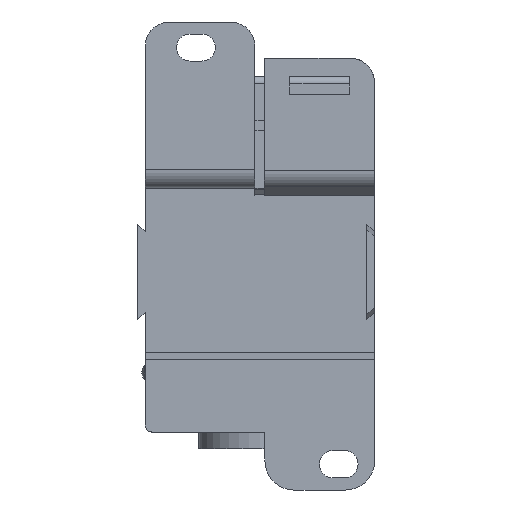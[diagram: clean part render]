
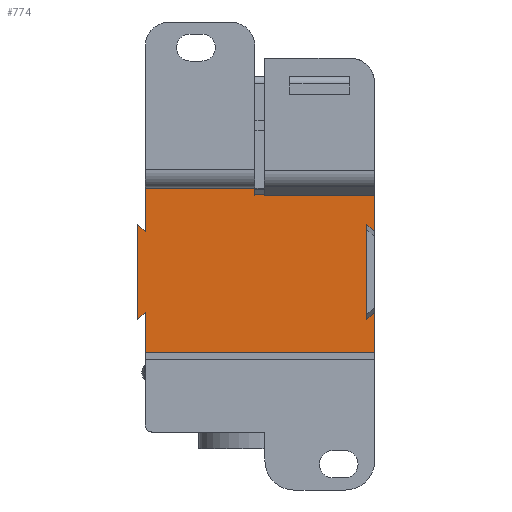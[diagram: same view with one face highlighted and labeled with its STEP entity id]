
A CAD part, front view. The second image highlights one B-rep face of the part: STEP entity #774.
In plain terms, the highlighted planar face has unit normal (0, -1, 0).
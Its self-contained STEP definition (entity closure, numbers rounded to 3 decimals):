
#79 = EDGE_CURVE ( 'NONE', #3804, #2477, #7376, .T. ) ;
#80 = EDGE_CURVE ( 'NONE', #2446, #3613, #7379, .T. ) ;
#81 = EDGE_CURVE ( 'NONE', #3617, #2481, #7382, .T. ) ;
#82 = EDGE_CURVE ( 'NONE', #3804, #3617, #7385, .T. ) ;
#83 = EDGE_CURVE ( 'NONE', #3850, #2798, #7388, .T. ) ;
#84 = EDGE_CURVE ( 'NONE', #3796, #3850, #7391, .T. ) ;
#85 = EDGE_CURVE ( 'NONE', #3796, #2853, #7394, .T. ) ;
#86 = EDGE_CURVE ( 'NONE', #3862, #2852, #7397, .T. ) ;
#87 = EDGE_CURVE ( 'NONE', #3861, #3863, #7400, .T. ) ;
#88 = EDGE_CURVE ( 'NONE', #3613, #3863, #7403, .T. ) ;
#699 = EDGE_CURVE ( 'NONE', #2852, #2853, #9649, .T. ) ;
#700 = EDGE_CURVE ( 'NONE', #2798, #2477, #9652, .T. ) ;
#774 = ADVANCED_FACE ( 'NONE', ( #10791 ), #9916, .T. ) ;
#1932 = EDGE_CURVE ( 'NONE', #2481, #2446, #15272, .T. ) ;
#1936 = EDGE_CURVE ( 'NONE', #3861, #3862, #15284, .T. ) ;
#2446 = VERTEX_POINT ( 'NONE', #15372 ) ;
#2477 = VERTEX_POINT ( 'NONE', #15403 ) ;
#2481 = VERTEX_POINT ( 'NONE', #15407 ) ;
#2798 = VERTEX_POINT ( 'NONE', #15724 ) ;
#2852 = VERTEX_POINT ( 'NONE', #15778 ) ;
#2853 = VERTEX_POINT ( 'NONE', #15779 ) ;
#3467 = EDGE_LOOP ( 'NONE', ( #4042, #4043, #4041, #4045, #4044, #4047, #4046, #4049, #4048, #4050, #4051, #4052, #4053, #4055 ) ) ;
#3613 = VERTEX_POINT ( 'NONE', #15965 ) ;
#3617 = VERTEX_POINT ( 'NONE', #15969 ) ;
#3796 = VERTEX_POINT ( 'NONE', #16148 ) ;
#3804 = VERTEX_POINT ( 'NONE', #16156 ) ;
#3850 = VERTEX_POINT ( 'NONE', #16209 ) ;
#3861 = VERTEX_POINT ( 'NONE', #16220 ) ;
#3862 = VERTEX_POINT ( 'NONE', #16221 ) ;
#3863 = VERTEX_POINT ( 'NONE', #16222 ) ;
#4041 = ORIENTED_EDGE ( 'NONE', *, *, #81, .F. ) ;
#4042 = ORIENTED_EDGE ( 'NONE', *, *, #80, .F. ) ;
#4043 = ORIENTED_EDGE ( 'NONE', *, *, #1932, .F. ) ;
#4044 = ORIENTED_EDGE ( 'NONE', *, *, #79, .T. ) ;
#4045 = ORIENTED_EDGE ( 'NONE', *, *, #82, .F. ) ;
#4046 = ORIENTED_EDGE ( 'NONE', *, *, #83, .F. ) ;
#4047 = ORIENTED_EDGE ( 'NONE', *, *, #700, .F. ) ;
#4048 = ORIENTED_EDGE ( 'NONE', *, *, #85, .T. ) ;
#4049 = ORIENTED_EDGE ( 'NONE', *, *, #84, .F. ) ;
#4050 = ORIENTED_EDGE ( 'NONE', *, *, #699, .F. ) ;
#4051 = ORIENTED_EDGE ( 'NONE', *, *, #86, .F. ) ;
#4052 = ORIENTED_EDGE ( 'NONE', *, *, #1936, .F. ) ;
#4053 = ORIENTED_EDGE ( 'NONE', *, *, #87, .T. ) ;
#4055 = ORIENTED_EDGE ( 'NONE', *, *, #88, .F. ) ;
#4732 = VECTOR ( 'NONE', #9651, 1000. ) ;
#4733 = VECTOR ( 'NONE', #9654, 1000. ) ;
#7376 = LINE ( 'NONE', #7377, #18971 ) ;
#7377 = CARTESIAN_POINT ( 'NONE',  ( 93.444, 6.4, 14. ) ) ;
#7378 = DIRECTION ( 'NONE',  ( -1., 0., 0. ) ) ;
#7379 = LINE ( 'NONE', #7380, #18947 ) ;
#7380 = CARTESIAN_POINT ( 'NONE',  ( 23.75, 6.4, 5.05 ) ) ;
#7381 = DIRECTION ( 'NONE',  ( -0.729, 0., 0.684 ) ) ;
#7382 = LINE ( 'NONE', #7383, #18952 ) ;
#7383 = CARTESIAN_POINT ( 'NONE',  ( 93.444, 6.4, 12.732 ) ) ;
#7384 = DIRECTION ( 'NONE',  ( 1., 0., 0. ) ) ;
#7385 = LINE ( 'NONE', #7386, #18958 ) ;
#7386 = CARTESIAN_POINT ( 'NONE',  ( -1.05, 6.4, 0. ) ) ;
#7387 = DIRECTION ( 'NONE',  ( 0., 0., -1. ) ) ;
#7388 = LINE ( 'NONE', #7389, #18964 ) ;
#7389 = CARTESIAN_POINT ( 'NONE',  ( -25.35, 6.4, 6.55 ) ) ;
#7390 = DIRECTION ( 'NONE',  ( 0.729, 0., -0.684 ) ) ;
#7391 = LINE ( 'NONE', #7392, #18961 ) ;
#7392 = CARTESIAN_POINT ( 'NONE',  ( -25.35, 6.4, -13.2 ) ) ;
#7393 = DIRECTION ( 'NONE',  ( 0., 0., 1. ) ) ;
#7394 = LINE ( 'NONE', #7395, #18970 ) ;
#7395 = CARTESIAN_POINT ( 'NONE',  ( -25.35, 6.4, -13.2 ) ) ;
#7396 = DIRECTION ( 'NONE',  ( 0.729, 0., 0.684 ) ) ;
#7397 = LINE ( 'NONE', #7398, #18946 ) ;
#7398 = CARTESIAN_POINT ( 'NONE',  ( 93.444, 6.4, -21.5 ) ) ;
#7399 = DIRECTION ( 'NONE',  ( -1., 0., 0. ) ) ;
#7400 = LINE ( 'NONE', #7401, #19859 ) ;
#7401 = CARTESIAN_POINT ( 'NONE',  ( 23.75, 6.4, -11.7 ) ) ;
#7402 = DIRECTION ( 'NONE',  ( -0.729, 0., -0.684 ) ) ;
#7403 = LINE ( 'NONE', #7404, #19855 ) ;
#7404 = CARTESIAN_POINT ( 'NONE',  ( 22.15, 6.4, 6.55 ) ) ;
#7405 = DIRECTION ( 'NONE',  ( 0., 0., -1. ) ) ;
#9649 = LINE ( 'NONE', #9650, #4732 ) ;
#9650 = CARTESIAN_POINT ( 'NONE',  ( -23.75, 6.4, 0. ) ) ;
#9651 = DIRECTION ( 'NONE',  ( 0., 0., 1. ) ) ;
#9652 = LINE ( 'NONE', #9653, #4733 ) ;
#9653 = CARTESIAN_POINT ( 'NONE',  ( -23.75, 6.4, 0. ) ) ;
#9654 = DIRECTION ( 'NONE',  ( 0., 0., 1. ) ) ;
#9916 = PLANE ( 'NONE',  #10794 ) ;
#9917 = CARTESIAN_POINT ( 'NONE',  ( 93.444, 6.4, 0. ) ) ;
#9918 = DIRECTION ( 'NONE',  ( 0., -1., 0. ) ) ;
#9919 = DIRECTION ( 'NONE',  ( 0., 0., -1. ) ) ;
#10791 = FACE_OUTER_BOUND ( 'NONE', #3467, .T. ) ;
#10794 = AXIS2_PLACEMENT_3D ( 'NONE', #9917, #9918, #9919 ) ;
#14850 = VECTOR ( 'NONE', #15274, 1000. ) ;
#14854 = VECTOR ( 'NONE', #15286, 1000. ) ;
#15272 = LINE ( 'NONE', #15273, #14850 ) ;
#15273 = CARTESIAN_POINT ( 'NONE',  ( 23.75, 6.4, 0. ) ) ;
#15274 = DIRECTION ( 'NONE',  ( 0., 0., -1. ) ) ;
#15284 = LINE ( 'NONE', #15285, #14854 ) ;
#15285 = CARTESIAN_POINT ( 'NONE',  ( 23.75, 6.4, 0. ) ) ;
#15286 = DIRECTION ( 'NONE',  ( 0., 0., -1. ) ) ;
#15372 = CARTESIAN_POINT ( 'NONE',  ( 23.75, 6.4, 5.05 ) ) ;
#15403 = CARTESIAN_POINT ( 'NONE',  ( -23.75, 6.4, 14. ) ) ;
#15407 = CARTESIAN_POINT ( 'NONE',  ( 23.75, 6.4, 12.732 ) ) ;
#15724 = CARTESIAN_POINT ( 'NONE',  ( -23.75, 6.4, 5.05 ) ) ;
#15778 = CARTESIAN_POINT ( 'NONE',  ( -23.75, 6.4, -21.5 ) ) ;
#15779 = CARTESIAN_POINT ( 'NONE',  ( -23.75, 6.4, -11.7 ) ) ;
#15965 = CARTESIAN_POINT ( 'NONE',  ( 22.15, 6.4, 6.55 ) ) ;
#15969 = CARTESIAN_POINT ( 'NONE',  ( -1.05, 6.4, 12.732 ) ) ;
#16148 = CARTESIAN_POINT ( 'NONE',  ( -25.35, 6.4, -13.2 ) ) ;
#16156 = CARTESIAN_POINT ( 'NONE',  ( -1.05, 6.4, 14. ) ) ;
#16209 = CARTESIAN_POINT ( 'NONE',  ( -25.35, 6.4, 6.55 ) ) ;
#16220 = CARTESIAN_POINT ( 'NONE',  ( 23.75, 6.4, -11.7 ) ) ;
#16221 = CARTESIAN_POINT ( 'NONE',  ( 23.75, 6.4, -21.5 ) ) ;
#16222 = CARTESIAN_POINT ( 'NONE',  ( 22.15, 6.4, -13.2 ) ) ;
#18946 = VECTOR ( 'NONE', #7399, 1000. ) ;
#18947 = VECTOR ( 'NONE', #7381, 1000. ) ;
#18952 = VECTOR ( 'NONE', #7384, 1000. ) ;
#18958 = VECTOR ( 'NONE', #7387, 1000. ) ;
#18961 = VECTOR ( 'NONE', #7393, 1000. ) ;
#18964 = VECTOR ( 'NONE', #7390, 1000. ) ;
#18970 = VECTOR ( 'NONE', #7396, 1000. ) ;
#18971 = VECTOR ( 'NONE', #7378, 1000. ) ;
#19855 = VECTOR ( 'NONE', #7405, 1000. ) ;
#19859 = VECTOR ( 'NONE', #7402, 1000. ) ;
